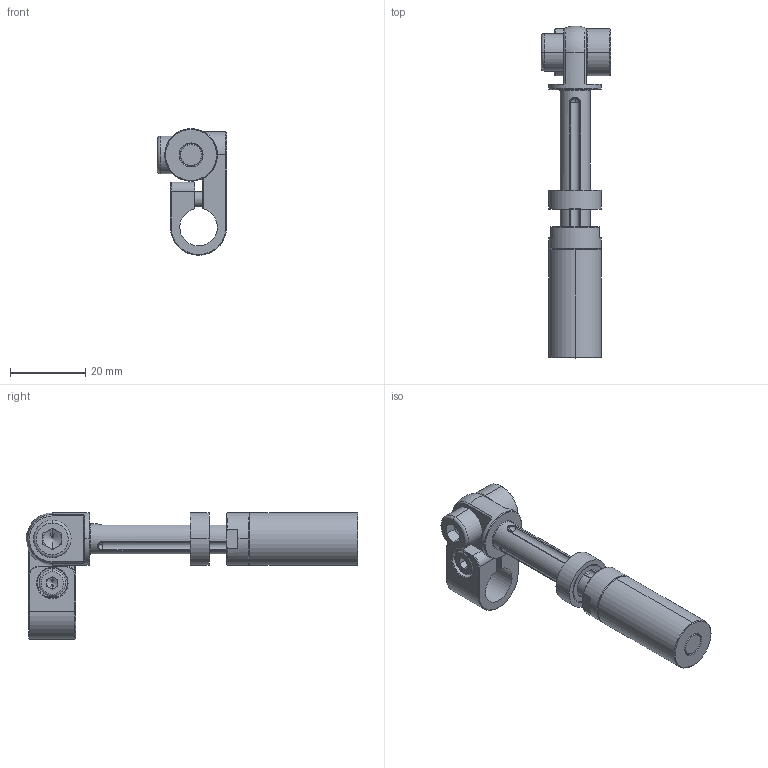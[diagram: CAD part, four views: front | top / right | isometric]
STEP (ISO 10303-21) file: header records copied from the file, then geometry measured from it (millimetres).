
FILE_DESCRIPTION(/* description */ (''),/* implementation_level */ '2;1');
FILE_NAME(/* name */ '8.Y00373-GSR1436-10.stp',/* time_stamp */ '2023-03-09T10:48:00+08:00',/* author */ (''),/* organization */ (''),/* preprocessor_version */ 'ST-DEVELOPER v16',/* originating_system */ 'SIEMENS PLM Software NX 10.0',/* authorisation */ '');
FILE_SCHEMA (('AUTOMOTIVE_DESIGN { 1 0 10303 214 3 1 1 1 }'));
Length unit declared in the file: millimetre
Products named in the file (1): _model117
Bounding box: 18.5 x 88.5 x 33.75 mm (x, y, z)
Volume: 11768.8 mm3; surface area: 8654.3 mm2
Topology: 2 solids, 10 shells, 271 faces, 632 edges, 384 vertices
Faces by surface type: cone 89, plane 83, cylinder 69, sphere 14, bspline 10, torus 6
Full cylindrical faces by diameter (mm): 8 x1
Entity records: 11942 total; most frequent: CARTESIAN_POINT 4580, DIRECTION 1386, ORIENTED_EDGE 1252, EDGE_CURVE 626, AXIS2_PLACEMENT_3D 553, VERTEX_POINT 384, EDGE_LOOP 300, CIRCLE 289
